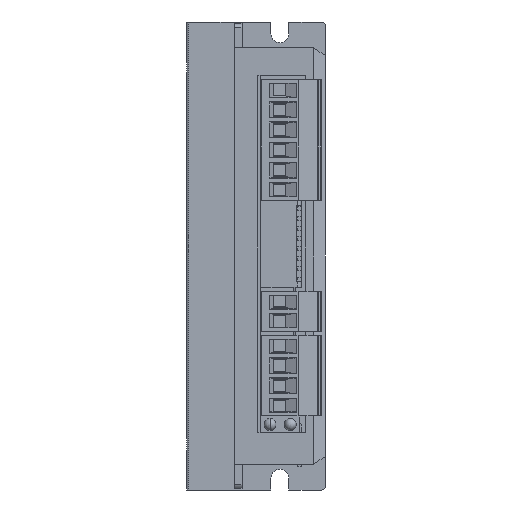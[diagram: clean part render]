
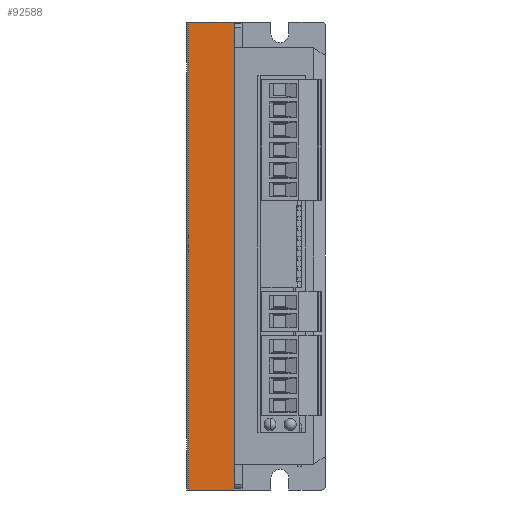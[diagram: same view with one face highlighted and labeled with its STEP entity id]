
A CAD part, front view. The second image highlights one B-rep face of the part: STEP entity #92588.
In plain terms, the highlighted planar face has unit normal (0, -1, 0).
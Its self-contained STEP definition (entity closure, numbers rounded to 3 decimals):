
#29542 = VERTEX_POINT ( 'NONE', #92708 ) ;
#30226 = EDGE_CURVE ( 'NONE', #29542, #30278, #93277, .T. ) ;
#30278 = VERTEX_POINT ( 'NONE', #93328 ) ;
#38767 = VERTEX_POINT ( 'NONE', #95500 ) ;
#39065 = EDGE_LOOP ( 'NONE', ( #40008, #92720, #91739, #91777 ) ) ;
#40008 = ORIENTED_EDGE ( 'NONE', *, *, #92460, .T. ) ;
#40196 = EDGE_CURVE ( 'NONE', #30278, #92571, #95767, .T. ) ;
#91739 = ORIENTED_EDGE ( 'NONE', *, *, #30226, .F. ) ;
#91777 = ORIENTED_EDGE ( 'NONE', *, *, #92437, .T. ) ;
#92437 = EDGE_CURVE ( 'NONE', #29542, #38767, #151761, .T. ) ;
#92460 = EDGE_CURVE ( 'NONE', #38767, #92571, #151809, .T. ) ;
#92571 = VERTEX_POINT ( 'NONE', #152035 ) ;
#92588 = ADVANCED_FACE ( 'NONE', ( #152028 ), #152033, .F. ) ;
#92708 = CARTESIAN_POINT ( 'NONE',  ( -17., -37.75, 0. ) ) ;
#92720 = ORIENTED_EDGE ( 'NONE', *, *, #40196, .F. ) ;
#93267 = DIRECTION ( 'NONE',  ( 0., 0., 1. ) ) ;
#93274 = VECTOR ( 'NONE', #93267, 1000. ) ;
#93276 = CARTESIAN_POINT ( 'NONE',  ( -17., -37.75, 118. ) ) ;
#93277 = LINE ( 'NONE', #93276, #93274 ) ;
#93328 = CARTESIAN_POINT ( 'NONE',  ( -17., -37.75, 118. ) ) ;
#95500 = CARTESIAN_POINT ( 'NONE',  ( -5.5, -37.75, 0. ) ) ;
#95757 = VECTOR ( 'NONE', #95776, 1000. ) ;
#95767 = LINE ( 'NONE', #95777, #95757 ) ;
#95776 = DIRECTION ( 'NONE',  ( 1., 0., 0. ) ) ;
#95777 = CARTESIAN_POINT ( 'NONE',  ( -17.2, -37.75, 118. ) ) ;
#151760 = CARTESIAN_POINT ( 'NONE',  ( -17., -37.75, 0. ) ) ;
#151761 = LINE ( 'NONE', #151760, #151832 ) ;
#151804 = DIRECTION ( 'NONE',  ( 0., 0., 1. ) ) ;
#151805 = VECTOR ( 'NONE', #151804, 1000. ) ;
#151806 = CARTESIAN_POINT ( 'NONE',  ( -5.5, -37.75, 118. ) ) ;
#151809 = LINE ( 'NONE', #151806, #151805 ) ;
#151831 = DIRECTION ( 'NONE',  ( 1., 0., 0. ) ) ;
#151832 = VECTOR ( 'NONE', #151831, 1000. ) ;
#151982 = AXIS2_PLACEMENT_3D ( 'NONE', #152063, #152061, #152060 ) ;
#152028 = FACE_OUTER_BOUND ( 'NONE', #39065, .T. ) ;
#152033 = PLANE ( 'NONE',  #151982 ) ;
#152035 = CARTESIAN_POINT ( 'NONE',  ( -5.5, -37.75, 118. ) ) ;
#152060 = DIRECTION ( 'NONE',  ( 0., 0., 1. ) ) ;
#152061 = DIRECTION ( 'NONE',  ( 0., 1., 0. ) ) ;
#152063 = CARTESIAN_POINT ( 'NONE',  ( -17., -37.75, 118. ) ) ;
